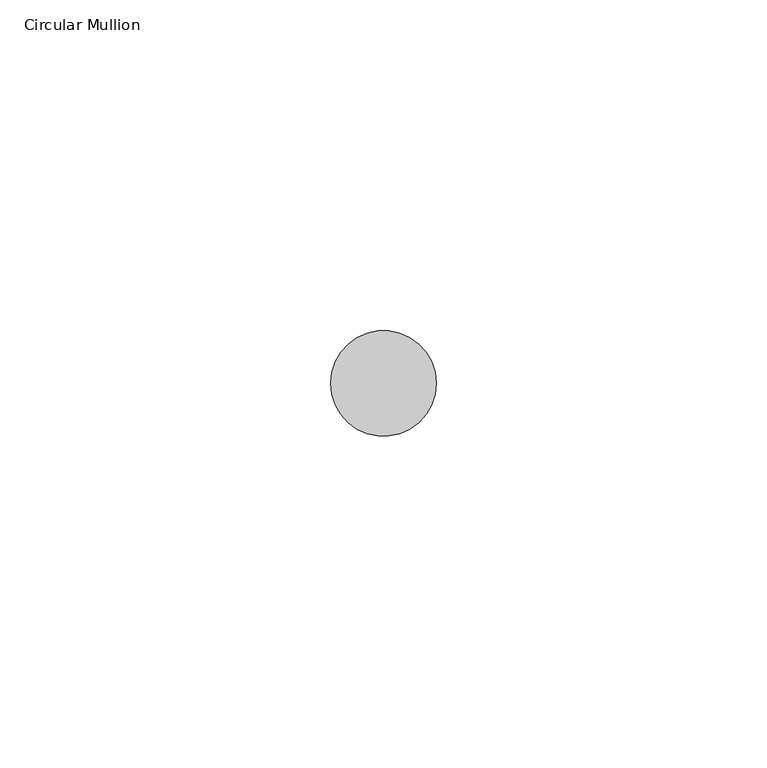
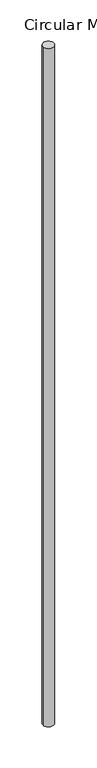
"""IFC4 building model written with IfcOpenShell, lengths in millimetres: member geometry, Circular Mullion : ARQ_HERR_16mm."""

from ifc_helpers import new_model, si_unit, point, frame, origin, origin_2d, place, context, project, spatial, circle_curve, trimmed, segment, composite_curve, outline, extrude, source, transform, mapped, element, save


def circular_mullion_0b75121d(model_context):
    return source(origin(), model_context, "Body", "SweptSolid", [
        extrude(outline(composite_curve([segment(trimmed(circle_curve(origin_2d(), 8.0), [point((8.0, 0.0))], [point((-8.0, 0.0))], False, "CARTESIAN"), True, "CONTINUOUS"), segment(trimmed(circle_curve(origin_2d(), 8.0), [point((-8.0, 0.0))], [point((8.0, 0.0))], False, "CARTESIAN"), True, "CONTINUOUS")], self_intersect=False)), frame((0.0, 0.0, -1038.0), z_axis=(0.0, 0.0, 1.0), x_axis=(1.0, 0.0, 0.0)), (0.0, 0.0, 1.0), 1038.0),
    ])


if __name__ == "__main__":
    model = new_model("IFC4")
    model_context = context("Model", 3, world=origin())
    ifc_project = project(units=[si_unit("LENGTHUNIT", "METRE", prefix="MILLI")], contexts=[model_context])
    site = spatial("IfcSite", under=ifc_project)
    building = spatial("IfcBuilding", under=site)
    placement = place(None, origin())
    circular_mullion_shape = circular_mullion_0b75121d(model_context)
    element("IfcMember", 1, ObjectType="Circular Mullion : ARQ_HERR_16mm", at=placement, inside=building, context=model_context, shape_type="MappedRepresentation", body=[
        mapped(circular_mullion_shape, transform((0.0, 0.0, 0.0), x_axis=(1.0, 0.0, 0.0), y_axis=(0.0, 1.0, 0.0), z_axis=(0.0, 0.0, 1.0))),
    ])
    save(model, "model.ifc")
